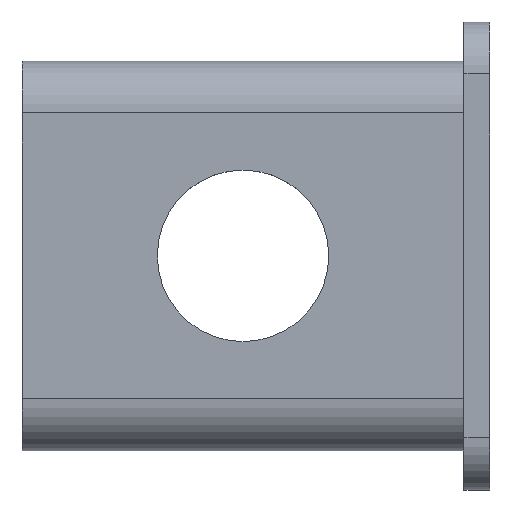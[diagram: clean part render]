
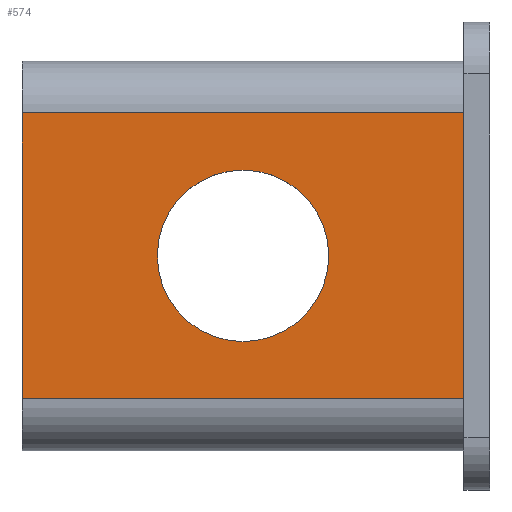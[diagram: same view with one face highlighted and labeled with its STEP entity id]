
A CAD part, top view. The second image highlights one B-rep face of the part: STEP entity #574.
In plain terms, the highlighted planar face has unit normal (0, 0, 1).
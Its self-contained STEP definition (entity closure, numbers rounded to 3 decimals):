
#108=FACE_BOUND('',#160,.T.);
#113=PLANE('',#629);
#132=FACE_OUTER_BOUND('',#159,.T.);
#159=EDGE_LOOP('',(#437,#438,#439,#440));
#160=EDGE_LOOP('',(#441));
#189=LINE('',#837,#240);
#190=LINE('',#840,#241);
#194=LINE('',#854,#245);
#195=LINE('',#855,#246);
#240=VECTOR('',#682,10.);
#241=VECTOR('',#685,10.);
#245=VECTOR('',#697,10.);
#246=VECTOR('',#698,10.);
#295=CIRCLE('',#630,3.3);
#310=VERTEX_POINT('',#830);
#313=VERTEX_POINT('',#835);
#314=VERTEX_POINT('',#839);
#320=VERTEX_POINT('',#853);
#321=VERTEX_POINT('',#856);
#359=EDGE_CURVE('',#313,#310,#189,.T.);
#360=EDGE_CURVE('',#314,#310,#190,.T.);
#367=EDGE_CURVE('',#313,#320,#194,.T.);
#368=EDGE_CURVE('',#314,#320,#195,.T.);
#369=EDGE_CURVE('',#321,#321,#295,.T.);
#437=ORIENTED_EDGE('',*,*,#359,.F.);
#438=ORIENTED_EDGE('',*,*,#367,.T.);
#439=ORIENTED_EDGE('',*,*,#368,.F.);
#440=ORIENTED_EDGE('',*,*,#360,.T.);
#441=ORIENTED_EDGE('',*,*,#369,.T.);
#574=ADVANCED_FACE('',(#132,#108),#113,.T.);
#629=AXIS2_PLACEMENT_3D('',#852,#695,#696);
#630=AXIS2_PLACEMENT_3D('',#857,#699,#700);
#682=DIRECTION('',(-1.,0.,0.));
#685=DIRECTION('',(0.,-1.,0.));
#695=DIRECTION('center_axis',(0.,0.,1.));
#696=DIRECTION('ref_axis',(1.,0.,0.));
#697=DIRECTION('',(0.,1.,0.));
#698=DIRECTION('',(1.,0.,0.));
#699=DIRECTION('center_axis',(0.,0.,-1.));
#700=DIRECTION('ref_axis',(-1.,0.,0.));
#830=CARTESIAN_POINT('',(-8.5,-5.5,8.));
#835=CARTESIAN_POINT('',(8.5,-5.5,8.));
#837=CARTESIAN_POINT('',(-4.25,-5.5,8.));
#839=CARTESIAN_POINT('',(-8.5,5.5,8.));
#840=CARTESIAN_POINT('',(-8.5,7.5,8.));
#852=CARTESIAN_POINT('Origin',(0.,0.,8.));
#853=CARTESIAN_POINT('',(8.5,5.5,8.));
#854=CARTESIAN_POINT('',(8.5,-7.5,8.));
#855=CARTESIAN_POINT('',(4.25,5.5,8.));
#856=CARTESIAN_POINT('',(3.3,0.,8.));
#857=CARTESIAN_POINT('Origin',(0.,0.,
8.));
